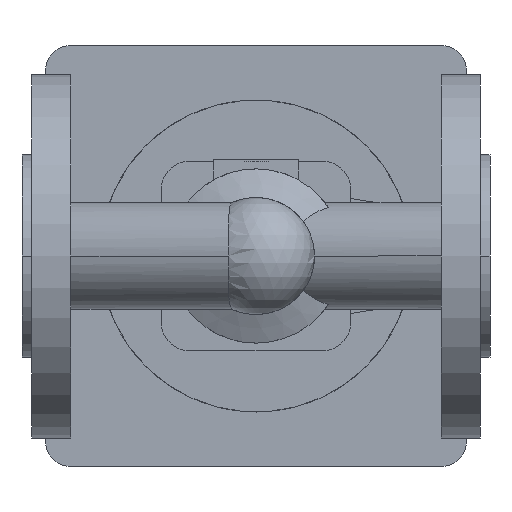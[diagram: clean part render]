
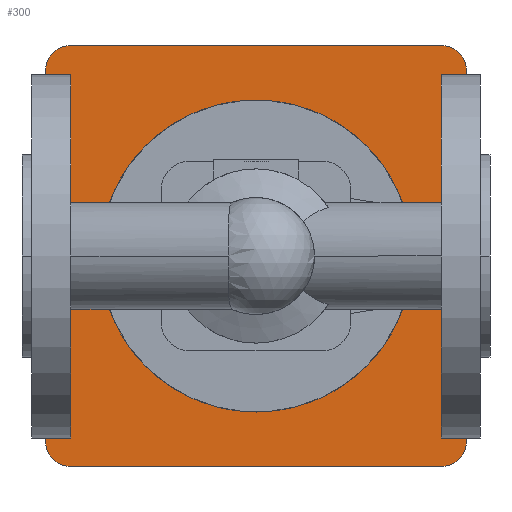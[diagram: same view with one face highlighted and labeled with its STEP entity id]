
A CAD part, front view. The second image highlights one B-rep face of the part: STEP entity #300.
In plain terms, the highlighted planar face has unit normal (0, -1, 0).
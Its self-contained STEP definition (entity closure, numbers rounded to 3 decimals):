
#300 = ADVANCED_FACE( '', ( #719, #720 ), #721, .F. );
#719 = FACE_OUTER_BOUND( '', #1164, .T. );
#720 = FACE_BOUND( '', #1165, .T. );
#721 = PLANE( '', #1166 );
#1164 = EDGE_LOOP( '', ( #2614, #2615, #2616, #2617, #2618, #2619, #2620, #2621 ) );
#1165 = EDGE_LOOP( '', ( #2622, #2623 ) );
#1166 = AXIS2_PLACEMENT_3D( '', #2624, #2625, #2626 );
#2614 = ORIENTED_EDGE( '', *, *, #3239, .F. );
#2615 = ORIENTED_EDGE( '', *, *, #3240, .F. );
#2616 = ORIENTED_EDGE( '', *, *, #3241, .F. );
#2617 = ORIENTED_EDGE( '', *, *, #3242, .F. );
#2618 = ORIENTED_EDGE( '', *, *, #3243, .F. );
#2619 = ORIENTED_EDGE( '', *, *, #3244, .F. );
#2620 = ORIENTED_EDGE( '', *, *, #3245, .F. );
#2621 = ORIENTED_EDGE( '', *, *, #3246, .F. );
#2622 = ORIENTED_EDGE( '', *, *, #3154, .F. );
#2623 = ORIENTED_EDGE( '', *, *, #3247, .F. );
#2624 = CARTESIAN_POINT( '', ( 90., 591.5, 0. ) );
#2625 = DIRECTION( '', ( 0., 1., 0. ) );
#2626 = DIRECTION( '', ( 0., 0., 1. ) );
#3154 = EDGE_CURVE( '', #3889, #3892, #3893, .T. );
#3239 = EDGE_CURVE( '', #4036, #4037, #4038, .T. );
#3240 = EDGE_CURVE( '', #4039, #4036, #4040, .T. );
#3241 = EDGE_CURVE( '', #4041, #4039, #4042, .T. );
#3242 = EDGE_CURVE( '', #4043, #4041, #4044, .T. );
#3243 = EDGE_CURVE( '', #4045, #4043, #4046, .T. );
#3244 = EDGE_CURVE( '', #4047, #4045, #4048, .T. );
#3245 = EDGE_CURVE( '', #4049, #4047, #4050, .T. );
#3246 = EDGE_CURVE( '', #4037, #4049, #4051, .T. );
#3247 = EDGE_CURVE( '', #3892, #3889, #4052, .T. );
#3889 = VERTEX_POINT( '', #5282 );
#3892 = VERTEX_POINT( '', #5286 );
#3893 = CIRCLE( '', #5287, 40. );
#4036 = VERTEX_POINT( '', #5485 );
#4037 = VERTEX_POINT( '', #5486 );
#4038 = CIRCLE( '', #5487, 10. );
#4039 = VERTEX_POINT( '', #5488 );
#4040 = LINE( '', #5489, #5490 );
#4041 = VERTEX_POINT( '', #5491 );
#4042 = CIRCLE( '', #5492, 10. );
#4043 = VERTEX_POINT( '', #5493 );
#4044 = LINE( '', #5494, #5495 );
#4045 = VERTEX_POINT( '', #5496 );
#4046 = CIRCLE( '', #5497, 10. );
#4047 = VERTEX_POINT( '', #5498 );
#4048 = LINE( '', #5499, #5500 );
#4049 = VERTEX_POINT( '', #5501 );
#4050 = CIRCLE( '', #5502, 10. );
#4051 = LINE( '', #5503, #5504 );
#4052 = CIRCLE( '', #5505, 40. );
#5282 = CARTESIAN_POINT( '', ( 50., 591.5, 0. ) );
#5286 = CARTESIAN_POINT( '', ( 130., 591.5, 0. ) );
#5287 = AXIS2_PLACEMENT_3D( '', #6228, #6229, #6230 );
#5485 = CARTESIAN_POINT( '', ( 9., 591.5, 71. ) );
#5486 = CARTESIAN_POINT( '', ( 19., 591.5, 81. ) );
#5487 = AXIS2_PLACEMENT_3D( '', #6373, #6374, #6375 );
#5488 = CARTESIAN_POINT( '', ( 9., 591.5, -71. ) );
#5489 = CARTESIAN_POINT( '', ( 9., 591.5, -71. ) );
#5490 = VECTOR( '', #6376, 1. );
#5491 = CARTESIAN_POINT( '', ( 19., 591.5, -81. ) );
#5492 = AXIS2_PLACEMENT_3D( '', #6377, #6378, #6379 );
#5493 = CARTESIAN_POINT( '', ( 161., 591.5, -81. ) );
#5494 = CARTESIAN_POINT( '', ( 161., 591.5, -81. ) );
#5495 = VECTOR( '', #6380, 1. );
#5496 = CARTESIAN_POINT( '', ( 171., 591.5, -71. ) );
#5497 = AXIS2_PLACEMENT_3D( '', #6381, #6382, #6383 );
#5498 = CARTESIAN_POINT( '', ( 171., 591.5, 71. ) );
#5499 = CARTESIAN_POINT( '', ( 171., 591.5, 71. ) );
#5500 = VECTOR( '', #6384, 1. );
#5501 = CARTESIAN_POINT( '', ( 161., 591.5, 81. ) );
#5502 = AXIS2_PLACEMENT_3D( '', #6385, #6386, #6387 );
#5503 = CARTESIAN_POINT( '', ( 19., 591.5, 81. ) );
#5504 = VECTOR( '', #6388, 1. );
#5505 = AXIS2_PLACEMENT_3D( '', #6389, #6390, #6391 );
#6228 = CARTESIAN_POINT( '', ( 90., 591.5, 0. ) );
#6229 = DIRECTION( '', ( 0., -1., 0. ) );
#6230 = DIRECTION( '', ( -1., 0., 0. ) );
#6373 = CARTESIAN_POINT( '', ( 19., 591.5, 71. ) );
#6374 = DIRECTION( '', ( 0., 1., 0. ) );
#6375 = DIRECTION( '', ( -1., 0., 0. ) );
#6376 = DIRECTION( '', ( 0., 0., 1. ) );
#6377 = CARTESIAN_POINT( '', ( 19., 591.5, -71. ) );
#6378 = DIRECTION( '', ( 0., 1., 0. ) );
#6379 = DIRECTION( '', ( 0., 0., -1. ) );
#6380 = DIRECTION( '', ( -1., 0., 0. ) );
#6381 = CARTESIAN_POINT( '', ( 161., 591.5, -71. ) );
#6382 = DIRECTION( '', ( 0., 1., 0. ) );
#6383 = DIRECTION( '', ( 1., 0., 0. ) );
#6384 = DIRECTION( '', ( 0., 0., -1. ) );
#6385 = CARTESIAN_POINT( '', ( 161., 591.5, 71. ) );
#6386 = DIRECTION( '', ( 0., 1., 0. ) );
#6387 = DIRECTION( '', ( 0., 0., 1. ) );
#6388 = DIRECTION( '', ( 1., 0., 0. ) );
#6389 = CARTESIAN_POINT( '', ( 90., 591.5, 0. ) );
#6390 = DIRECTION( '', ( 0., -1., 0. ) );
#6391 = DIRECTION( '', ( -1., 0., 0. ) );
